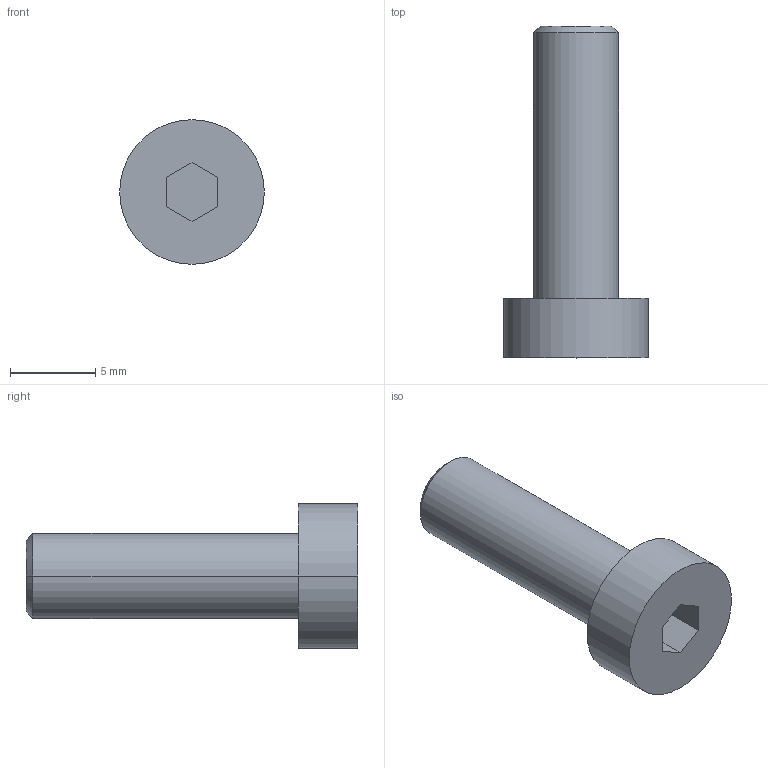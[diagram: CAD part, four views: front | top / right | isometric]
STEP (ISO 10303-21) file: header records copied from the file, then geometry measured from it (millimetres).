
FILE_DESCRIPTION((''),'2;1');
FILE_NAME('VTCEI0516','2002-12-27T',('Lipro doo'),('Lipro d.o.o.'),'PRO/ENGINEER BY PARAMETRIC TECHNOLOGY CORPORATION, 2001150','PRO/ENGINEER BY PARAMETRIC TECHNOLOGY CORPORATION, 2001150','');
FILE_SCHEMA(('CONFIG_CONTROL_DESIGN'));
Length unit declared in the file: millimetre
Products named in the file (1): VTCEI0516
Bounding box: 8.5 x 19.5 x 8.5 mm (x, y, z)
Volume: 490.5 mm3; surface area: 693.6 mm2
Topology: 1 solids, 2 shells, 18 faces, 40 edges, 26 vertices
Faces by surface type: plane 10, cylinder 6, cone 2
Entity records: 546 total; most frequent: DIRECTION 92, CARTESIAN_POINT 85, ORIENTED_EDGE 76, EDGE_CURVE 40, AXIS2_PLACEMENT_3D 33, VECTOR 26, LINE 26, VERTEX_POINT 26
